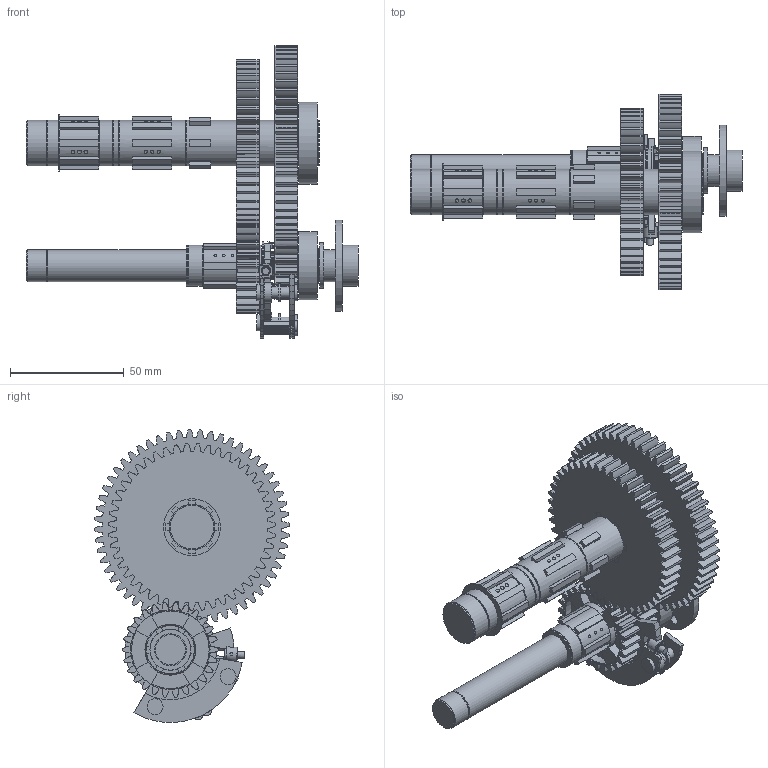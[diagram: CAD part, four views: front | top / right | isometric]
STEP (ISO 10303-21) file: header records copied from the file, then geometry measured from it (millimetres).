
FILE_DESCRIPTION(('Open CASCADE Model'),'2;1');
FILE_NAME('R12_B3_NEUTRAL','2026-09-28T18:11:12',('Author'),( 'Open CASCADE'),'Open CASCADE STEP processor 7.9','build123d', 'Unknown');
FILE_SCHEMA(('AUTOMOTIVE_DESIGN { 1 0 10303 214 1 1 1 1 }'));
Length unit declared in the file: millimetre
Products named in the file (31): R12_B3_NEUTRAL; B3_driver_56T; B3_driver_56T_key; intermediate_shaft_1_R6_B12_local_segment; B2_C2_PAIRED_driver_47T; B2_C2_PAIRED_free_26T; U_right_bearing; U_right_retaining_ring; U_right_shaft_seal; I_right_bearing; U_R12_local_12mm_shaft; U_R12_removable_original_bearing_seal_land; output_R12_detachable_R7_external_flange; output_R12_M5_retainer_thread_envelope; B3_R12_U_axis_single_sided_dog; B3_R12_free_17T_end_face_windows; B3_R12_12x14_flanged_plain_bush; B3_R12_bush_boundary_C_clip; B3_R12_U_axis_two_foot_fork; B3_R12_radial_follower_pin; B3_R12_follower_keeper; B3_R12_guide_rod_1_with_stop; B3_R12_guide_1_left_retainer; B3_R12_guide_1_right_retainer; B3_R12_guide_rod_2_with_stop; B3_R12_guide_2_left_retainer; B3_R12_guide_2_right_retainer; B3_R12_rear_support_M3_1; B3_R12_rear_support_M3_2; B3_R12_front_support_and_carrier; B3_R12_removable_rear_support
Assembly tree (30 placements, depth 2):
  R12_B3_NEUTRAL
    B3_driver_56T
    B3_driver_56T_key
    intermediate_shaft_1_R6_B12_local_segment
    B2_C2_PAIRED_driver_47T
    B2_C2_PAIRED_free_26T
    U_right_bearing
    U_right_retaining_ring
    U_right_shaft_seal
    I_right_bearing
    U_R12_local_12mm_shaft
    U_R12_removable_original_bearing_seal_land
    output_R12_detachable_R7_external_flange
    output_R12_M5_retainer_thread_envelope
    B3_R12_U_axis_single_sided_dog
    B3_R12_free_17T_end_face_windows
    B3_R12_12x14_flanged_plain_bush
    B3_R12_bush_boundary_C_clip
    B3_R12_U_axis_two_foot_fork
    B3_R12_radial_follower_pin
    B3_R12_follower_keeper
    B3_R12_guide_rod_1_with_stop
    B3_R12_guide_1_left_retainer
    B3_R12_guide_1_right_retainer
    B3_R12_guide_rod_2_with_stop
    B3_R12_guide_2_left_retainer
    B3_R12_guide_2_right_retainer
    B3_R12_rear_support_M3_1
    B3_R12_rear_support_M3_2
    B3_R12_front_support_and_carrier
    B3_R12_removable_rear_support
Bounding box: 146 x 85.79 x 128.79 mm (x, y, z)
Volume: 183380.5 mm3; surface area: 75854.4 mm2
Topology: 30 solids, 30 shells, 2358 faces, 6378 edges, 4193 vertices
Faces by surface type: plane 1548, cylinder 469, extrusion 292, sphere 33, cone 16
Full cylindrical faces by diameter (mm): 1.2 x1, 1.3 x3, 2 x4, 2.1 x4, 2.4 x2, 3 x1, 4 x2, 4.06 x1, 4.2 x1, 4.4 x6, 4.6 x2, 4.8 x1, 5 x4, 5.08 x6, 5.5 x1, 6.4 x1, 7 x4, 8 x2, 8.5 x1, 8.7 x1, 9 x2, 11.6 x1, 12 x2, 12.05 x2, 13.2 x4, 14 x7, 14.05 x1, 14.2 x2, 14.6 x1, 14.7 x1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
Entity records: 214808 total; most frequent: CARTESIAN_POINT 89673, DIRECTION 21407, VECTOR 14154, LINE 13862, ORIENTED_EDGE 12726, PCURVE 12726, DEFINITIONAL_REPRESENTATION 12726, EDGE_CURVE 6363
